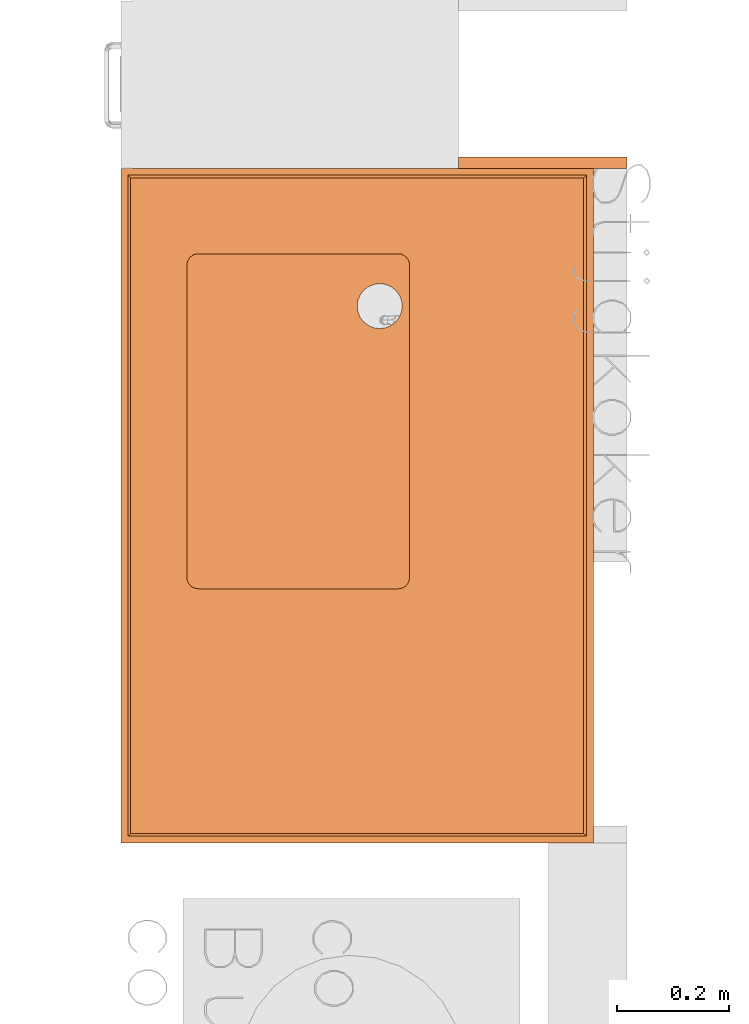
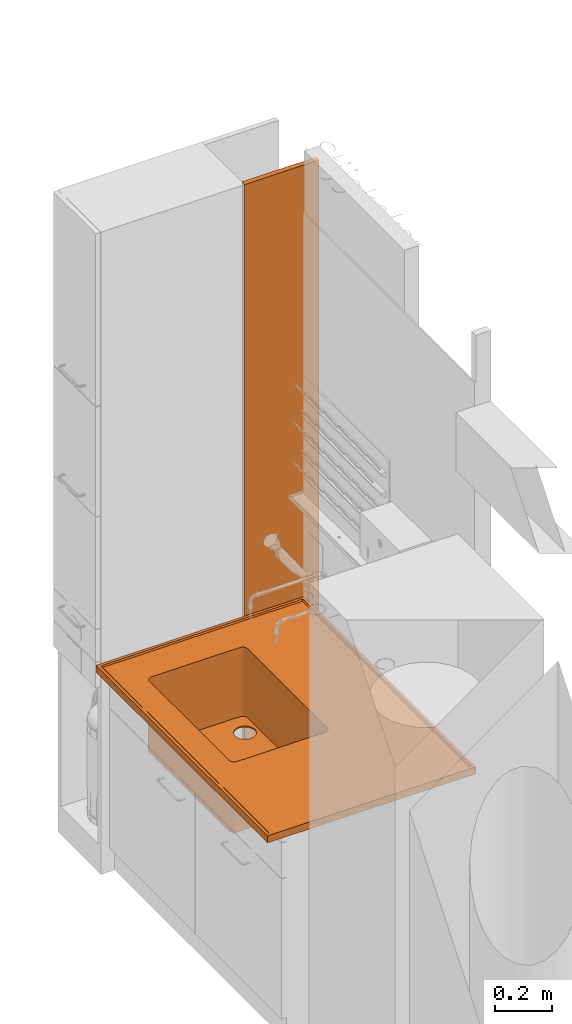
# One storey, part 24 of 43: 2 proxies.
"""IFC2X3 building model written with IfcOpenShell, lengths in metres."""

from ifc_helpers import new_model, entity, si_unit, converted_unit, derived_unit, direction, frame, origin, origin_2d_with_axis, place, context, subcontext, project, spatial, rectangle, extrude, faceted_brep, source, transform, mapped, material, type_object, type_shapes, element, save


model = new_model("IFC2X3")

# Units and contexts
model_context = context("Model", 3, precision=1e-05, world=origin(), true_north=direction((6.12303176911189e-17, 1.0)))
body_context = subcontext(model_context, "Body", "Model", "MODEL_VIEW")
ifc_project = project(units=[si_unit("LENGTHUNIT", "METRE"), si_unit("AREAUNIT", "SQUARE_METRE"), si_unit("VOLUMEUNIT", "CUBIC_METRE"), converted_unit("PLANEANGLEUNIT", "DEGREE", entity("IfcRatioMeasure", 0.0174532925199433), si_unit("PLANEANGLEUNIT", "RADIAN"), dimensions=[0, 0, 0, 0, 0, 0, 0]), si_unit("MASSUNIT", "GRAM", prefix="KILO"), derived_unit("MASSDENSITYUNIT", [(si_unit("MASSUNIT", "GRAM", prefix="KILO"), 1), (si_unit("LENGTHUNIT", "METRE"), -3)]), derived_unit("MOMENTOFINERTIAUNIT", [(si_unit("LENGTHUNIT", "METRE"), 4)]), si_unit("TIMEUNIT", "SECOND"), si_unit("FREQUENCYUNIT", "HERTZ"), si_unit("THERMODYNAMICTEMPERATUREUNIT", "DEGREE_CELSIUS"), derived_unit("THERMALTRANSMITTANCEUNIT", [(si_unit("MASSUNIT", "GRAM", prefix="KILO"), 1), (si_unit("THERMODYNAMICTEMPERATUREUNIT", "KELVIN"), -1), (si_unit("TIMEUNIT", "SECOND"), -3)]), derived_unit("VOLUMETRICFLOWRATEUNIT", [(si_unit("LENGTHUNIT", "METRE"), 3), (si_unit("TIMEUNIT", "SECOND"), -1)]), si_unit("ELECTRICCURRENTUNIT", "AMPERE"), si_unit("ELECTRICVOLTAGEUNIT", "VOLT"), si_unit("POWERUNIT", "WATT"), si_unit("FORCEUNIT", "NEWTON", prefix="KILO"), si_unit("ILLUMINANCEUNIT", "LUX"), si_unit("LUMINOUSFLUXUNIT", "LUMEN"), si_unit("LUMINOUSINTENSITYUNIT", "CANDELA"), derived_unit("USERDEFINED", [(si_unit("MASSUNIT", "GRAM", prefix="KILO"), -1), (si_unit("LENGTHUNIT", "METRE"), -2), (si_unit("TIMEUNIT", "SECOND"), 3), (si_unit("LUMINOUSFLUXUNIT", "LUMEN"), 1)]), derived_unit("LINEARVELOCITYUNIT", [(si_unit("LENGTHUNIT", "METRE"), 1), (si_unit("TIMEUNIT", "SECOND"), -1)]), si_unit("PRESSUREUNIT", "PASCAL"), derived_unit("USERDEFINED", [(si_unit("LENGTHUNIT", "METRE"), -2), (si_unit("MASSUNIT", "GRAM", prefix="KILO"), 1), (si_unit("TIMEUNIT", "SECOND"), -2)]), derived_unit("LINEARFORCEUNIT", [(si_unit("MASSUNIT", "GRAM", prefix="KILO"), 1), (si_unit("LENGTHUNIT", "METRE"), 1), (si_unit("TIMEUNIT", "SECOND"), -2), (si_unit("LENGTHUNIT", "METRE"), -1)]), derived_unit("PLANARFORCEUNIT", [(si_unit("MASSUNIT", "GRAM", prefix="KILO"), 1), (si_unit("LENGTHUNIT", "METRE"), 1), (si_unit("TIMEUNIT", "SECOND"), -2), (si_unit("LENGTHUNIT", "METRE"), -2)])], contexts=[model_context])

# Site, building, storey
site_placement = place(None, origin())
site = spatial("IfcSite", under=ifc_project, at=site_placement, Name="Default", CompositionType="ELEMENT")
building_placement = place(site_placement, origin())
building = spatial("IfcBuilding", under=site, at=building_placement, CompositionType="ELEMENT")
storey_placement = place(building_placement, frame((0.0, 0.0, 3.0)))
storey = spatial("IfcBuildingStorey", under=building, at=storey_placement, Name="01 OG", CompositionType="ELEMENT", Elevation=3.0)

# Proxies
ifc_material_1 = material(Name="Steinzeug")
building_element_proxy_type_1 = type_object("IfcBuildingElementProxyType", Name="dh_Tischplatte Steinzeug Becken:dh_Tischplatte Steinzeug Becken", PredefinedType="NOTDEFINED", material=ifc_material_1)
shared_shape_1 = source(origin(), body_context, "Body", "Brep", [
    faceted_brep([(0.150681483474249, 0.500176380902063, 0.0), (0.155857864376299, 0.509142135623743, 0.0), (0.16000000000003, 0.512320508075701, 0.0), (0.152679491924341, 0.505000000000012, 0.0), (0.15000000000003, 0.495000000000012, 0.0), (0.16482361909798, 0.514318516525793, 0.0), (0.17000000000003, 0.515000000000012, 0.0), (0.206362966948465, 0.470352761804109, 0.0), (0.210358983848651, 0.480000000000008, 0.0), (0.216715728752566, 0.48828427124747, 0.0), (0.225000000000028, 0.494641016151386, 0.0), (0.234647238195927, 0.498637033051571, 0.0), (0.245000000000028, 0.500000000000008, 0.0), (0.255352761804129, 0.498637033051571, 0.0), (0.730000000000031, 0.515000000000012, 0.0), (0.265000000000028, 0.494641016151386, 0.0), (0.27328427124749, 0.48828427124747, 0.0), (0.279641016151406, 0.480000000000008, 0.0), (0.283637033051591, 0.470352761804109, 0.0), (0.285000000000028, 0.460000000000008, 0.0), (0.283637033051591, 0.449647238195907, 0.0), (0.279641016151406, 0.440000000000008, 0.0), (0.73000000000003, 0.115000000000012, 0.0), (0.75000000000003, 0.135000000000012, 0.0), (0.75000000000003, 0.495000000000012, 0.0), (0.735176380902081, 0.514318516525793, 0.0), (0.740000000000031, 0.512320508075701, 0.0), (0.749318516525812, 0.500176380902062, 0.0), (0.744142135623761, 0.509142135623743, 0.0), (0.747320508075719, 0.505000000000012, 0.0), (0.73517638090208, 0.115681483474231, 0.0), (0.74000000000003, 0.117679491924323, 0.0), (0.749318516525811, 0.129823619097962, 0.0), (0.744142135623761, 0.120857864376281, 0.0), (0.747320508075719, 0.125000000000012, 0.0), (0.27328427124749, 0.431715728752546, 0.0), (0.170000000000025, 0.115000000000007, 0.0), (0.265000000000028, 0.425358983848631, 0.0), (0.255352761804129, 0.421362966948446, 0.0), (0.150000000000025, 0.135000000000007, 0.0), (0.164823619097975, 0.115681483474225, 0.0), (0.160000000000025, 0.117679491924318, 0.0), (0.150681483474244, 0.129823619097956, 0.0), (0.155857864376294, 0.120857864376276, 0.0), (0.152679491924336, 0.125000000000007, 0.0), (0.210358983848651, 0.440000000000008, 0.0), (0.216715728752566, 0.431715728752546, 0.0), (0.225000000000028, 0.425358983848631, 0.0), (0.234647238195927, 0.421362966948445, 0.0), (0.245000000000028, 0.420000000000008, 0.0), (0.205000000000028, 0.460000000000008, 0.0), (0.206362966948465, 0.449647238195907, 0.0), (0.74532050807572, 0.503000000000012, 0.3), (0.74732050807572, 0.505000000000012, 0.3), (0.742142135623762, 0.507142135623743, 0.3), (0.749318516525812, 0.500176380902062, 0.3), (0.747318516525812, 0.498176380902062, 0.3), (0.750000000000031, 0.495000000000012, 0.3), (0.748000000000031, 0.493000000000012, 0.3), (0.748000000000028, 0.137000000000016, 0.3), (0.750000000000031, 0.135000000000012, 0.3), (0.747318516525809, 0.131823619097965, 0.3), (0.749318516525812, 0.129823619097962, 0.3), (0.745320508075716, 0.127000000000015, 0.3), (0.74732050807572, 0.125000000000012, 0.3), (0.742142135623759, 0.122857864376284, 0.3), (0.744142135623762, 0.120857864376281, 0.3), (0.740000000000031, 0.117679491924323, 0.3), (0.738000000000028, 0.119679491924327, 0.3), (0.735176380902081, 0.115681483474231, 0.3), (0.733176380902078, 0.117681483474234, 0.3), (0.730000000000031, 0.115000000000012, 0.3), (0.728000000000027, 0.117000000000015, 0.3), (0.172000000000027, 0.117000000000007, 0.300000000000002), (0.170000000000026, 0.115000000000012, 0.300000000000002), (0.166823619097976, 0.117681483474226, 0.300000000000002), (0.164823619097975, 0.115681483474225, 0.300000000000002), (0.162000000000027, 0.119679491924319, 0.300000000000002), (0.160000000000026, 0.117679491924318, 0.300000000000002), (0.157857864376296, 0.122857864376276, 0.300000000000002), (0.155857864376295, 0.120857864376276, 0.300000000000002), (0.152679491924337, 0.125000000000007, 0.300000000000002), (0.154679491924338, 0.127000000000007, 0.300000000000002), (0.150681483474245, 0.129823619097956, 0.300000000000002), (0.152681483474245, 0.131823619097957, 0.300000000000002), (0.150000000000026, 0.135000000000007, 0.300000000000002), (0.152000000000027, 0.137000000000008, 0.300000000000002), (0.150000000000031, 0.495000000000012, 0.300000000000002), (0.152000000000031, 0.493000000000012, 0.300000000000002), (0.15268148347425, 0.498176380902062, 0.300000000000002), (0.15068148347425, 0.500176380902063, 0.300000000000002), (0.154679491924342, 0.503000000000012, 0.300000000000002), (0.152679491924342, 0.505000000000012, 0.300000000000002), (0.1578578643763, 0.507142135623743, 0.300000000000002), (0.1558578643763, 0.509142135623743, 0.300000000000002), (0.160000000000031, 0.512320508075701, 0.300000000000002), (0.162000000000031, 0.510320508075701, 0.300000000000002), (0.164823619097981, 0.514318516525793, 0.300000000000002), (0.166823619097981, 0.512318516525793, 0.300000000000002), (0.170000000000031, 0.515000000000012, 0.300000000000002), (0.172000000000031, 0.513000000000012, 0.300000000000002), (0.730000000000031, 0.515000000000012, 0.3), (0.728000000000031, 0.513000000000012, 0.3), (0.733176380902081, 0.512318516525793, 0.3), (0.735176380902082, 0.514318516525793, 0.3), (0.738000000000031, 0.510320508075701, 0.3), (0.740000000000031, 0.512320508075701, 0.3), (0.744142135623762, 0.509142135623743, 0.3), (0.730000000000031, 0.515000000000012, 0.15000042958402), (0.170000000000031, 0.515000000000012, 0.150000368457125), (0.150000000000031, 0.495000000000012, 0.150000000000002), (0.150000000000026, 0.135000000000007, 0.150000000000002), (0.170000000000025, 0.115000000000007, 0.150000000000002), (0.73000000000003, 0.115000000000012, 0.15), (0.75000000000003, 0.135000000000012, 0.15), (0.750000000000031, 0.495000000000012, 0.15), (0.16200000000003, 0.510320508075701, 0.00500000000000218), (0.157857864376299, 0.507142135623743, 0.00500000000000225), (0.152681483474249, 0.498176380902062, 0.00500000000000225), (0.15200000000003, 0.493000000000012, 0.00500000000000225), (0.16682361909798, 0.512318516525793, 0.00500000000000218), (0.154679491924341, 0.503000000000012, 0.00500000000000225), (0.17200000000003, 0.513000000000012, 0.00500000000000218), (0.206362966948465, 0.470352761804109, 0.00500000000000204), (0.205000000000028, 0.460000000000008, 0.00500000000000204), (0.206362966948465, 0.449647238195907, 0.00500000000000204), (0.210358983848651, 0.440000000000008, 0.00500000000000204), (0.152000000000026, 0.137000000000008, 0.00500000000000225), (0.216715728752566, 0.431715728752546, 0.00500000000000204), (0.225000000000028, 0.425358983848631, 0.00500000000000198), (0.234647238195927, 0.421362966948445, 0.00500000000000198), (0.245000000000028, 0.420000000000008, 0.00500000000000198), (0.255352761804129, 0.421362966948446, 0.00500000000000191), (0.172000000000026, 0.117000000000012, 0.00500000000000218), (0.166823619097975, 0.117681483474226, 0.00500000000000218), (0.162000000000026, 0.119679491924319, 0.00500000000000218), (0.152681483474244, 0.131823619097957, 0.00500000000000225), (0.157857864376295, 0.122857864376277, 0.00500000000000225), (0.154679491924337, 0.127000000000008, 0.00500000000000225), (0.265000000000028, 0.425358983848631, 0.00500000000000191), (0.27328427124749, 0.431715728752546, 0.00500000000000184), (0.728000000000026, 0.117000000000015, 0.00500000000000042), (0.279641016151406, 0.440000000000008, 0.00500000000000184), (0.72800000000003, 0.513000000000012, 0.00500000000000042), (0.74800000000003, 0.137000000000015, 0.00500000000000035), (0.733176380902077, 0.117681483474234, 0.00500000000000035), (0.738000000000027, 0.119679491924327, 0.00500000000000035), (0.747318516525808, 0.131823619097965, 0.00500000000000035), (0.742142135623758, 0.122857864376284, 0.00500000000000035), (0.745320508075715, 0.127000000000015, 0.00500000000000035), (0.74800000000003, 0.493000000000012, 0.00500000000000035), (0.733176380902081, 0.512318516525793, 0.00500000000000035), (0.73800000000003, 0.510320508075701, 0.00500000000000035), (0.747318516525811, 0.498176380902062, 0.00500000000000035), (0.742142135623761, 0.507142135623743, 0.00500000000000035), (0.745320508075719, 0.503000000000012, 0.00500000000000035), (0.255352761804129, 0.498637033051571, 0.00500000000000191), (0.265000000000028, 0.494641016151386, 0.00500000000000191), (0.27328427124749, 0.48828427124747, 0.00500000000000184), (0.279641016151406, 0.480000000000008, 0.00500000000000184), (0.283637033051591, 0.470352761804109, 0.00500000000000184), (0.285000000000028, 0.460000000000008, 0.00500000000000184), (0.283637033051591, 0.449647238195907, 0.00500000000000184), (0.210358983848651, 0.480000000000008, 0.00500000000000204), (0.216715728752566, 0.48828427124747, 0.00500000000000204), (0.225000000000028, 0.494641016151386, 0.00500000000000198), (0.234647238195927, 0.498637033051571, 0.00500000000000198), (0.245000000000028, 0.500000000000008, 0.00500000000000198), (0.172000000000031, 0.513000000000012, 0.152499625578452), (0.728000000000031, 0.513000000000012, 0.1525), (0.152000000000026, 0.137000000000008, 0.152500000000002), (0.152000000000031, 0.493000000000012, 0.152500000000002), (0.728000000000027, 0.117000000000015, 0.1525), (0.172000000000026, 0.117000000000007, 0.152500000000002), (0.748000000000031, 0.493000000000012, 0.1525), (0.748000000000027, 0.137000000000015, 0.1525), (0.164346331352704, 0.511477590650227, 0.152499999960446), (0.153522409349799, 0.500653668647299, 0.152499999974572), (0.152384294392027, 0.496901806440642, 0.187662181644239), (0.168098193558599, 0.512615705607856, 0.117337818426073), (0.159824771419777, 0.508867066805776, 0.136631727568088), (0.156132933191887, 0.505175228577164, 0.168368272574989), (0.153522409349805, 0.129346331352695, 0.152499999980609), (0.164346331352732, 0.118522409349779, 0.152499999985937), (0.168098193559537, 0.117384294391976, 0.187662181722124), (0.15238429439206, 0.133098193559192, 0.117337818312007), (0.156132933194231, 0.124824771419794, 0.136631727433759), (0.15982477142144, 0.121132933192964, 0.168368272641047), (0.735653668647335, 0.118522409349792, 0.152499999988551), (0.746477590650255, 0.129346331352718, 0.1524999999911), (0.747615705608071, 0.133098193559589, 0.187662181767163), (0.731901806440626, 0.117384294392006, 0.117337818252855), (0.740175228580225, 0.121132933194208, 0.136631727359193), (0.7438670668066, 0.124824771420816, 0.168368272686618), (0.746477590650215, 0.500653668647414, 0.152499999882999), (0.735653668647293, 0.511477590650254, 0.152499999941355), (0.731901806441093, 0.512615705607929, 0.187662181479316), (0.747615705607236, 0.496901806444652, 0.117337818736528), (0.743867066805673, 0.505175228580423, 0.136631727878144), (0.740175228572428, 0.508867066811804, 0.168368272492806), (0.162346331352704, 0.513477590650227, 0.149999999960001), (0.150384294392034, 0.498901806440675, 0.187055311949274), (0.151522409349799, 0.502653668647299, 0.14999999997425), (0.166098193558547, 0.514615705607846, 0.112944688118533), (0.157824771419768, 0.510867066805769, 0.13191703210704), (0.154132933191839, 0.507175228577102, 0.16808296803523), (0.151522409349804, 0.127346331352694, 0.149999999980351), (0.166098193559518, 0.115384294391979, 0.187055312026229), (0.162346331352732, 0.116522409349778, 0.149999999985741), (0.150384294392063, 0.131098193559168, 0.112944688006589), (0.154132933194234, 0.122824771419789, 0.13191703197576), (0.157824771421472, 0.119132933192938, 0.16808296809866), (0.737653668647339, 0.116522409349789, 0.149999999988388), (0.749615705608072, 0.131098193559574, 0.187055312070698), (0.748477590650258, 0.127346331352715, 0.14999999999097), (0.733901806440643, 0.115384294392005, 0.112944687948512), (0.742175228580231, 0.119132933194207, 0.131917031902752), (0.745867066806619, 0.122824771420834, 0.168082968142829), (0.748477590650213, 0.502653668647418, 0.149999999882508), (0.733901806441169, 0.514615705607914, 0.187055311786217), (0.737653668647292, 0.513477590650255, 0.149999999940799), (0.749615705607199, 0.498901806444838, 0.112944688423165), (0.745867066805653, 0.507175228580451, 0.131917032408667), (0.742175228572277, 0.51086706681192, 0.168082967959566)], [[[0, 1, 2]], [[0, 3, 1]], [[0, 2, 4]], [[4, 2, 5]], [[5, 6, 4]], [[6, 7, 4]], [[8, 7, 6]], [[8, 6, 9]], [[10, 9, 6]], [[6, 11, 10]], [[6, 12, 11]], [[12, 6, 13]], [[13, 6, 14]], [[15, 13, 14]], [[16, 15, 14]], [[16, 14, 17]], [[18, 17, 14]], [[19, 18, 14]], [[19, 14, 20]], [[20, 14, 21]], [[22, 21, 14]], [[23, 22, 14]], [[23, 14, 24]], [[24, 14, 25]], [[24, 25, 26]], [[24, 26, 27]], [[27, 26, 28]], [[28, 29, 27]], [[22, 23, 30]], [[31, 30, 23]], [[32, 31, 23]], [[33, 31, 32]], [[33, 32, 34]], [[35, 21, 22]], [[22, 36, 35]], [[35, 36, 37]], [[37, 36, 38]], [[39, 38, 36]], [[39, 36, 40]], [[41, 39, 40]], [[41, 42, 39]], [[42, 41, 43]], [[42, 43, 44]], [[39, 4, 45]], [[46, 39, 45]], [[39, 46, 47]], [[47, 48, 39]], [[49, 39, 48]], [[38, 39, 49]], [[4, 7, 50]], [[4, 50, 51]], [[4, 51, 45]], [[52, 53, 54]], [[53, 52, 55]], [[55, 52, 56]], [[57, 55, 56]], [[56, 58, 57]], [[57, 58, 59]], [[59, 60, 57]], [[60, 59, 61]], [[60, 61, 62]], [[62, 61, 63]], [[64, 62, 63]], [[65, 64, 63]], [[64, 65, 66]], [[65, 67, 66]], [[65, 68, 67]], [[67, 68, 69]], [[68, 70, 69]], [[71, 69, 70]], [[72, 71, 70]], [[71, 72, 73]], [[73, 74, 71]], [[73, 75, 74]], [[74, 75, 76]], [[75, 77, 76]], [[77, 78, 76]], [[77, 79, 78]], [[79, 80, 78]], [[79, 81, 80]], [[81, 79, 82]], [[83, 81, 82]], [[82, 84, 83]], [[84, 85, 83]], [[84, 86, 85]], [[85, 86, 87]], [[88, 87, 86]], [[88, 89, 87]], [[90, 87, 89]], [[89, 91, 90]], [[91, 92, 90]], [[92, 91, 93]], [[92, 93, 94]], [[93, 95, 94]], [[95, 93, 96]], [[97, 95, 96]], [[98, 97, 96]], [[98, 99, 97]], [[98, 100, 99]], [[99, 100, 101]], [[102, 101, 100]], [[103, 101, 102]], [[103, 104, 101]], [[104, 103, 105]], [[54, 106, 105]], [[105, 106, 104]], [[54, 53, 107]], [[106, 54, 107]], [[99, 101, 108, 14, 6, 109]], [[87, 110, 4, 39, 111, 85]], [[74, 112, 36, 22, 113, 71]], [[60, 114, 23, 24, 115, 57]], [[116, 117, 118]], [[119, 116, 118]], [[120, 116, 119]], [[117, 121, 118]], [[119, 122, 120]], [[119, 123, 122]], [[124, 123, 119]], [[125, 124, 119]], [[126, 125, 119]], [[126, 119, 127]], [[126, 127, 128]], [[129, 128, 127]], [[127, 130, 129]], [[130, 127, 131]], [[131, 127, 132]], [[133, 132, 127]], [[134, 133, 127]], [[134, 127, 135]], [[127, 136, 135]], [[137, 135, 136]], [[138, 137, 136]], [[132, 133, 139]], [[139, 133, 140]], [[140, 133, 141]], [[141, 142, 140]], [[143, 142, 141]], [[143, 141, 144]], [[145, 144, 141]], [[144, 145, 146]], [[144, 146, 147]], [[147, 146, 148]], [[149, 147, 148]], [[150, 143, 144]], [[151, 143, 150]], [[152, 151, 150]], [[153, 152, 150]], [[154, 152, 153]], [[153, 155, 154]], [[143, 122, 156]], [[143, 156, 157]], [[143, 157, 158]], [[159, 143, 158]], [[143, 159, 160]], [[143, 160, 161]], [[162, 143, 161]], [[142, 143, 162]], [[122, 123, 163]], [[164, 122, 163]], [[122, 164, 165]], [[165, 166, 122]], [[166, 167, 122]], [[156, 122, 167]], [[100, 168, 122, 143, 169, 102]], [[86, 170, 127, 119, 171, 88]], [[72, 172, 141, 133, 173, 73]], [[58, 174, 150, 144, 175, 59]], [[19, 161, 160, 18]], [[18, 160, 159, 17]], [[15, 16, 158, 157]], [[158, 16, 17, 159]], [[13, 15, 157, 156]], [[13, 156, 167, 12]], [[12, 167, 166, 11]], [[11, 166, 165, 10]], [[8, 9, 164, 163]], [[164, 9, 10, 165]], [[7, 8, 163, 123]], [[7, 123, 124, 50]], [[50, 124, 125, 51]], [[51, 125, 126, 45]], [[47, 46, 128, 129]], [[128, 46, 45, 126]], [[48, 47, 129, 130]], [[48, 130, 131, 49]], [[49, 131, 132, 38]], [[38, 132, 139, 37]], [[21, 35, 140, 142]], [[140, 35, 37, 139]], [[20, 21, 142, 162]], [[20, 162, 161, 19]], [[116, 120, 176]], [[177, 178, 118]], [[168, 179, 122]], [[116, 176, 180]], [[180, 117, 116]], [[176, 120, 179]], [[89, 88, 178]], [[100, 98, 168]], [[176, 98, 96]], [[122, 179, 120]], [[180, 176, 96]], [[171, 178, 88]], [[118, 121, 177]], [[117, 180, 181]], [[181, 180, 93]], [[171, 119, 118]], [[181, 121, 117]], [[91, 177, 181]], [[98, 179, 168]], [[91, 89, 177]], [[89, 178, 177]], [[93, 180, 96]], [[118, 178, 171]], [[181, 177, 121]], [[176, 179, 98]], [[93, 91, 181]], [[138, 136, 182]], [[183, 184, 134]], [[170, 185, 127]], [[138, 182, 186]], [[186, 137, 138]], [[182, 136, 185]], [[75, 73, 184]], [[86, 84, 170]], [[182, 84, 82]], [[127, 185, 136]], [[186, 182, 82]], [[173, 184, 73]], [[134, 135, 183]], [[137, 186, 187]], [[187, 186, 79]], [[173, 133, 134]], [[187, 135, 137]], [[77, 183, 187]], [[84, 185, 170]], [[77, 75, 183]], [[75, 184, 183]], [[79, 186, 82]], [[134, 184, 173]], [[187, 183, 135]], [[182, 185, 84]], [[79, 77, 187]], [[146, 145, 188]], [[189, 190, 147]], [[172, 191, 141]], [[146, 188, 192]], [[192, 148, 146]], [[188, 145, 191]], [[61, 59, 190]], [[72, 70, 172]], [[188, 70, 68]], [[141, 191, 145]], [[192, 188, 68]], [[175, 190, 59]], [[147, 149, 189]], [[148, 192, 193]], [[193, 192, 65]], [[175, 144, 147]], [[193, 149, 148]], [[63, 189, 193]], [[70, 191, 172]], [[63, 61, 189]], [[61, 190, 189]], [[65, 192, 68]], [[147, 190, 175]], [[193, 189, 149]], [[188, 191, 70]], [[65, 63, 193]], [[155, 153, 194]], [[195, 196, 151]], [[174, 197, 150]], [[155, 194, 198]], [[198, 154, 155]], [[194, 153, 197]], [[103, 102, 196]], [[58, 56, 174]], [[194, 56, 52]], [[150, 197, 153]], [[198, 194, 52]], [[169, 196, 102]], [[151, 152, 195]], [[154, 198, 199]], [[199, 198, 54]], [[169, 143, 151]], [[199, 152, 154]], [[105, 195, 199]], [[56, 197, 174]], [[105, 103, 195]], [[103, 196, 195]], [[54, 198, 52]], [[151, 196, 169]], [[199, 195, 152]], [[194, 197, 56]], [[54, 105, 199]], [[200, 5, 2]], [[0, 201, 202]], [[6, 203, 109]], [[204, 200, 2]], [[2, 1, 204]], [[203, 5, 200]], [[201, 87, 90]], [[109, 97, 99]], [[95, 97, 200]], [[5, 203, 6]], [[95, 200, 204]], [[87, 201, 110]], [[202, 3, 0]], [[205, 204, 1]], [[94, 204, 205]], [[0, 4, 110]], [[1, 3, 205]], [[205, 202, 92]], [[109, 203, 97]], [[202, 90, 92]], [[202, 201, 90]], [[95, 204, 94]], [[110, 201, 0]], [[3, 202, 205]], [[97, 203, 200]], [[205, 92, 94]], [[206, 42, 44]], [[40, 207, 208]], [[39, 209, 111]], [[210, 206, 44]], [[44, 43, 210]], [[209, 42, 206]], [[207, 74, 76]], [[111, 83, 85]], [[81, 83, 206]], [[42, 209, 39]], [[81, 206, 210]], [[74, 207, 112]], [[208, 41, 40]], [[211, 210, 43]], [[80, 210, 211]], [[40, 36, 112]], [[43, 41, 211]], [[211, 208, 78]], [[111, 209, 83]], [[208, 76, 78]], [[208, 207, 76]], [[81, 210, 80]], [[112, 207, 40]], [[41, 208, 211]], [[83, 209, 206]], [[211, 78, 80]], [[212, 30, 31]], [[32, 213, 214]], [[22, 215, 113]], [[216, 212, 31]], [[31, 33, 216]], [[215, 30, 212]], [[213, 60, 62]], [[113, 69, 71]], [[67, 69, 212]], [[30, 215, 22]], [[67, 212, 216]], [[60, 213, 114]], [[214, 34, 32]], [[217, 216, 33]], [[66, 216, 217]], [[32, 23, 114]], [[33, 34, 217]], [[217, 214, 64]], [[113, 215, 69]], [[214, 62, 64]], [[214, 213, 62]], [[67, 216, 66]], [[114, 213, 32]], [[34, 214, 217]], [[69, 215, 212]], [[217, 64, 66]], [[218, 27, 29]], [[25, 219, 220]], [[24, 221, 115]], [[222, 218, 29]], [[29, 28, 222]], [[221, 27, 218]], [[219, 101, 104]], [[115, 55, 57]], [[53, 55, 218]], [[27, 221, 24]], [[53, 218, 222]], [[101, 219, 108]], [[220, 26, 25]], [[223, 222, 28]], [[107, 222, 223]], [[25, 14, 108]], [[28, 26, 223]], [[223, 220, 106]], [[115, 221, 55]], [[220, 104, 106]], [[220, 219, 104]], [[53, 222, 107]], [[108, 219, 25]], [[26, 220, 223]], [[55, 221, 218]], [[223, 106, 107]]]),
    faceted_brep([(1.18300000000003, 0.823000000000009, 0.299999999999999), (0.74532050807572, 0.503000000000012, 0.3), (0.747318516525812, 0.498176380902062, 0.3), (0.742142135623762, 0.507142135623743, 0.300000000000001), (0.748000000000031, 0.493000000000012, 0.3), (1.18300000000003, 0.017000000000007, 0.299999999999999), (0.738000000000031, 0.510320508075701, 0.300000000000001), (0.733176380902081, 0.512318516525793, 0.300000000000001), (0.728000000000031, 0.513000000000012, 0.300000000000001), (0.017000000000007, 0.823000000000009, 0.300000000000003), (0.172000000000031, 0.513000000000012, 0.300000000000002), (0.166823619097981, 0.512318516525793, 0.300000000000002), (0.162000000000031, 0.510320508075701, 0.300000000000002), (0.1578578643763, 0.507142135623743, 0.300000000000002), (0.154679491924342, 0.503000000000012, 0.300000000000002), (0.15268148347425, 0.498176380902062, 0.300000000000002), (0.152000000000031, 0.493000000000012, 0.300000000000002), (0.0170000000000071, 0.017000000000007, 0.300000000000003), (0.728000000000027, 0.117000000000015, 0.300000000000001), (0.152000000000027, 0.137000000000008, 0.300000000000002), (0.152681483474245, 0.131823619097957, 0.300000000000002), (0.154679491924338, 0.127000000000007, 0.300000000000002), (0.157857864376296, 0.122857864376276, 0.300000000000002), (0.162000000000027, 0.119679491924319, 0.300000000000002), (0.166823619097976, 0.117681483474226, 0.300000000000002), (0.172000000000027, 0.117000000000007, 0.300000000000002), (0.733176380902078, 0.117681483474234, 0.300000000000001), (0.748000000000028, 0.137000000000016, 0.3), (0.747318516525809, 0.131823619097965, 0.3), (0.745320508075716, 0.127000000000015, 0.3), (0.742142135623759, 0.122857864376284, 0.300000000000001), (0.738000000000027, 0.119679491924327, 0.300000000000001), (0.0, 0.840000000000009, 0.275000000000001), (0.154679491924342, 0.503000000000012, 0.275000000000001), (0.15268148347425, 0.498176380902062, 0.275000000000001), (0.1578578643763, 0.507142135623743, 0.275000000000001), (0.152000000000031, 0.493000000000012, 0.275000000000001), (0.0, 0.0, 0.275000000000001), (0.162000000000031, 0.510320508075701, 0.275000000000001), (0.166823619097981, 0.512318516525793, 0.275000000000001), (0.172000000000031, 0.513000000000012, 0.275000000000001), (0.728000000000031, 0.513000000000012, 0.274999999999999), (1.20000000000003, 0.840000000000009, 0.274999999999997), (0.733176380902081, 0.512318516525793, 0.274999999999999), (0.738000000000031, 0.510320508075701, 0.274999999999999), (0.742142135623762, 0.507142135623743, 0.274999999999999), (0.74532050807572, 0.503000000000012, 0.274999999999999), (0.747318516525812, 0.498176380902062, 0.274999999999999), (0.748000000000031, 0.493000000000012, 0.274999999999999), (1.20000000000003, 0.0, 0.274999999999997), (0.748000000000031, 0.137000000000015, 0.274999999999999), (0.747318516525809, 0.131823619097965, 0.274999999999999), (0.745320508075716, 0.127000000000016, 0.274999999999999), (0.742142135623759, 0.122857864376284, 0.274999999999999), (0.738000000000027, 0.119679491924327, 0.274999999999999), (0.733176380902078, 0.117681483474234, 0.274999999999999), (0.728000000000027, 0.117000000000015, 0.274999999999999), (0.152000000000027, 0.137000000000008, 0.275000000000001), (0.152681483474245, 0.131823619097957, 0.275000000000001), (0.154679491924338, 0.127000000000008, 0.275000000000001), (0.157857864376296, 0.122857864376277, 0.275000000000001), (0.162000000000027, 0.119679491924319, 0.275000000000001), (0.166823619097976, 0.117681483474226, 0.275000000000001), (0.172000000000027, 0.117000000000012, 0.275000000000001), (0.0, 0.840000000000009, 0.305000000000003), (1.20000000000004, 0.840000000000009, 0.304999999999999), (0.0, 0.0, 0.305000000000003), (1.20000000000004, 0.0, 0.304999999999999), (0.0120000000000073, 0.828000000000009, 0.305000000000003), (1.18800000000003, 0.828000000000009, 0.304999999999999), (1.18800000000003, 0.012000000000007, 0.304999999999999), (0.0120000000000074, 0.0120000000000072, 0.305000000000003)], [[[0, 1, 2]], [[1, 0, 3]], [[2, 4, 0]], [[0, 4, 5]], [[6, 3, 0]], [[7, 6, 0]], [[8, 7, 0]], [[0, 9, 8]], [[10, 8, 9]], [[11, 10, 9]], [[11, 9, 12]], [[13, 12, 9]], [[9, 14, 13]], [[14, 9, 15]], [[16, 15, 9]], [[9, 17, 16]], [[5, 18, 17]], [[19, 16, 17]], [[20, 19, 17]], [[17, 21, 20]], [[21, 17, 22]], [[23, 22, 17]], [[23, 17, 24]], [[25, 24, 17]], [[25, 17, 18]], [[26, 18, 5]], [[27, 5, 4]], [[27, 28, 5]], [[29, 5, 28]], [[5, 29, 30]], [[30, 31, 5]], [[31, 26, 5]], [[32, 33, 34]], [[33, 32, 35]], [[34, 36, 32]], [[32, 36, 37]], [[38, 35, 32]], [[39, 38, 32]], [[40, 39, 32]], [[32, 41, 40]], [[41, 32, 42]], [[43, 41, 42]], [[43, 42, 44]], [[45, 44, 42]], [[42, 46, 45]], [[46, 42, 47]], [[48, 47, 42]], [[42, 49, 48]], [[50, 48, 49]], [[51, 50, 49]], [[49, 52, 51]], [[52, 49, 53]], [[54, 53, 49]], [[54, 49, 55]], [[56, 55, 49]], [[56, 49, 37]], [[57, 37, 36]], [[57, 58, 37]], [[59, 37, 58]], [[37, 59, 60]], [[60, 61, 37]], [[61, 62, 37]], [[62, 63, 37]], [[37, 63, 56]], [[64, 65, 42, 32]], [[66, 64, 32, 37]], [[67, 66, 37, 49]], [[65, 67, 49, 42]], [[68, 9, 0, 69]], [[69, 0, 5, 70]], [[70, 5, 17, 71]], [[71, 17, 9, 68]], [[67, 70, 71]], [[70, 67, 69]], [[71, 66, 67]], [[65, 69, 67]], [[69, 65, 68]], [[64, 68, 65]], [[68, 64, 66]], [[66, 71, 68]], [[41, 8, 10, 40]], [[36, 16, 19, 57]], [[63, 25, 18, 56]], [[50, 27, 4, 48]], [[39, 40, 10, 11]], [[38, 39, 11, 12]], [[38, 12, 13, 35]], [[33, 35, 13, 14]], [[34, 33, 14, 15]], [[15, 16, 36, 34]], [[58, 57, 19, 20]], [[59, 58, 20, 21]], [[59, 21, 22, 60]], [[62, 61, 23, 24]], [[63, 62, 24, 25]], [[22, 23, 61, 60]], [[55, 56, 18, 26]], [[54, 55, 26, 31]], [[54, 31, 30, 53]], [[51, 52, 29, 28]], [[50, 51, 28, 27]], [[30, 29, 52, 53]], [[47, 48, 4, 2]], [[46, 47, 2, 1]], [[46, 1, 3, 45]], [[44, 45, 3, 6]], [[43, 44, 6, 7]], [[7, 8, 41, 43]]]),
])
type_shapes(building_element_proxy_type_1, [shared_shape_1])
proxy_1_placement = place(storey_placement, frame((16.1500000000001, 16.0240000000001, 1.295), z_axis=(0.0, 0.0, 1.0), x_axis=(0.0, -1.0, 0.0)))
element("IfcBuildingElementProxy", 1, at=proxy_1_placement, inside=storey, type_object=building_element_proxy_type_1, material=ifc_material_1, Name="dh_Tischplatte Steinzeug Becken:dh_Tischplatte Steinzeug Becken", ObjectType="dh_Tischplatte Steinzeug Becken:dh_Tischplatte Steinzeug Becken", context=body_context, shape_type="MappedRepresentation", body=[
    mapped(shared_shape_1, transform((0.0, 0.0, 0.0), scale=1.0)),
])
ifc_material_2 = material(Name="dh_Weiß")
building_element_proxy_type_2 = type_object("IfcBuildingElementProxyType", Name="dh_Blende:dh_Blende", PredefinedType="NOTDEFINED", material=ifc_material_2)
shared_shape_2 = source(origin(), body_context, "Body", "SweptSolid", [
    extrude(rectangle(XDim=0.299999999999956, YDim=0.02, at=origin_2d_with_axis()), frame((0.0, -0.00999999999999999, 0.0), z_axis=(0.0, 0.0, 1.0), x_axis=(-1.0, 0.0, 0.0)), (0.0, 0.0, 1.0), 2.74),
])
type_shapes(building_element_proxy_type_2, [shared_shape_2])
proxy_2_placement = place(storey_placement, frame((16.9000000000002, 16.0440000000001, 0.7)))
element("IfcBuildingElementProxy", 2, at=proxy_2_placement, inside=storey, type_object=building_element_proxy_type_2, material=ifc_material_2, Name="dh_Blende:dh_Blende", ObjectType="dh_Blende:dh_Blende", context=body_context, shape_type="MappedRepresentation", body=[
    mapped(shared_shape_2, transform((0.0, 0.0, 0.0), scale=1.0)),
])

save(model, "model.ifc")
